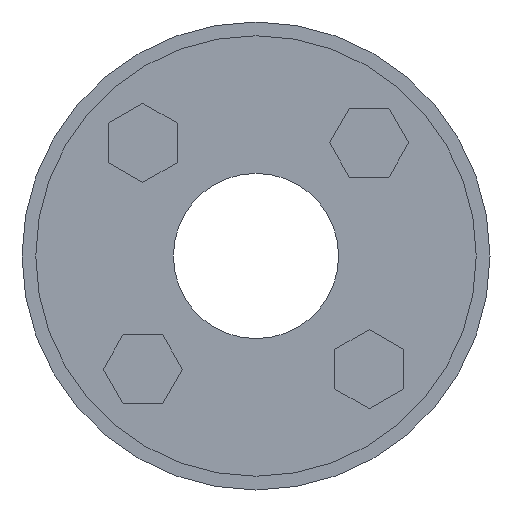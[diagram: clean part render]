
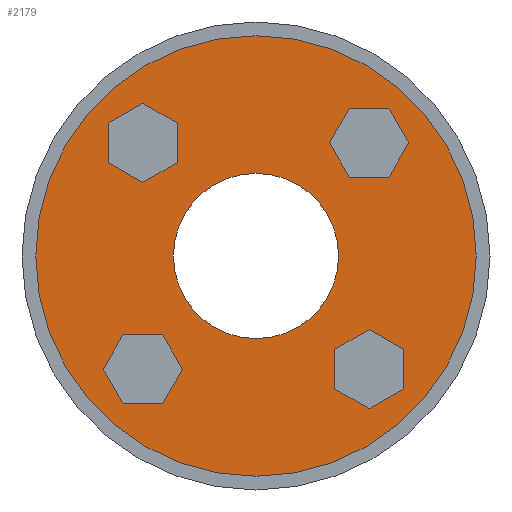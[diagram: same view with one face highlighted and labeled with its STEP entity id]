
A CAD part, left-side view. The second image highlights one B-rep face of the part: STEP entity #2179.
In plain terms, the highlighted planar face has unit normal (-1, 0, 0).
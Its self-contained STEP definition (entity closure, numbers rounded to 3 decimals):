
#8 = DIRECTION ( 'NONE',  ( 0., 0., 1. ) ) ;
#9 = DIRECTION ( 'NONE',  ( -1., 0., 0. ) ) ;
#10 = CARTESIAN_POINT ( 'NONE',  ( 0., 0., 0. ) ) ;
#11 = AXIS2_PLACEMENT_3D ( 'NONE', #10, #9, #8 ) ;
#12 = CIRCLE ( 'NONE', #11, 12. ) ;
#13 = DIRECTION ( 'NONE',  ( 0., 0., -1. ) ) ;
#14 = DIRECTION ( 'NONE',  ( 1., 0., 0. ) ) ;
#15 = CARTESIAN_POINT ( 'NONE',  ( 0., 0., 0. ) ) ;
#16 = AXIS2_PLACEMENT_3D ( 'NONE', #15, #14, #13 ) ;
#17 = PLANE ( 'NONE',  #16 ) ;
#18 = FACE_OUTER_BOUND ( 'NONE', #2220, .T. ) ;
#19 = FACE_BOUND ( 'NONE', #2180, .T. ) ;
#300 = DIRECTION ( 'NONE',  ( 0., 0., 1. ) ) ;
#418 = DIRECTION ( 'NONE',  ( -1., 0., 0. ) ) ;
#419 = CARTESIAN_POINT ( 'NONE',  ( 0., 0., 0. ) ) ;
#420 = AXIS2_PLACEMENT_3D ( 'NONE', #419, #418, #300 ) ;
#421 = CIRCLE ( 'NONE', #420, 32. ) ;
#1734 = EDGE_CURVE ( 'NONE', #1735, #1744, #3071, .T. ) ;
#1735 = VERTEX_POINT ( 'NONE', #3066 ) ;
#1744 = VERTEX_POINT ( 'NONE', #3037 ) ;
#1819 = VERTEX_POINT ( 'NONE', #3227 ) ;
#1821 = EDGE_CURVE ( 'NONE', #1819, #1822, #3226, .T. ) ;
#1822 = VERTEX_POINT ( 'NONE', #3221 ) ;
#2179 = ADVANCED_FACE ( 'NONE', ( #19, #18 ), #17, .F. ) ;
#2180 = EDGE_LOOP ( 'NONE', ( #2181, #2219 ) ) ;
#2181 = ORIENTED_EDGE ( 'NONE', *, *, #2182, .F. ) ;
#2182 = EDGE_CURVE ( 'NONE', #1822, #1819, #12, .T. ) ;
#2219 = ORIENTED_EDGE ( 'NONE', *, *, #1821, .F. ) ;
#2220 = EDGE_LOOP ( 'NONE', ( #2221, #2222 ) ) ;
#2221 = ORIENTED_EDGE ( 'NONE', *, *, #1734, .T. ) ;
#2222 = ORIENTED_EDGE ( 'NONE', *, *, #2223, .T. ) ;
#2223 = EDGE_CURVE ( 'NONE', #1744, #1735, #421, .T. ) ;
#3037 = CARTESIAN_POINT ( 'NONE',  ( 0., 0., -32. ) ) ;
#3066 = CARTESIAN_POINT ( 'NONE',  ( 0., 0., 32. ) ) ;
#3067 = DIRECTION ( 'NONE',  ( 0., 0., 1. ) ) ;
#3068 = DIRECTION ( 'NONE',  ( -1., 0., 0. ) ) ;
#3069 = CARTESIAN_POINT ( 'NONE',  ( 0., 0., 0. ) ) ;
#3070 = AXIS2_PLACEMENT_3D ( 'NONE', #3069, #3068, #3067 ) ;
#3071 = CIRCLE ( 'NONE', #3070, 32. ) ;
#3221 = CARTESIAN_POINT ( 'NONE',  ( 0., 0., 12. ) ) ;
#3222 = DIRECTION ( 'NONE',  ( 0., 0., 1. ) ) ;
#3223 = DIRECTION ( 'NONE',  ( -1., 0., 0. ) ) ;
#3224 = CARTESIAN_POINT ( 'NONE',  ( 0., 0., 0. ) ) ;
#3225 = AXIS2_PLACEMENT_3D ( 'NONE', #3224, #3223, #3222 ) ;
#3226 = CIRCLE ( 'NONE', #3225, 12. ) ;
#3227 = CARTESIAN_POINT ( 'NONE',  ( 0., 0., -12. ) ) ;
